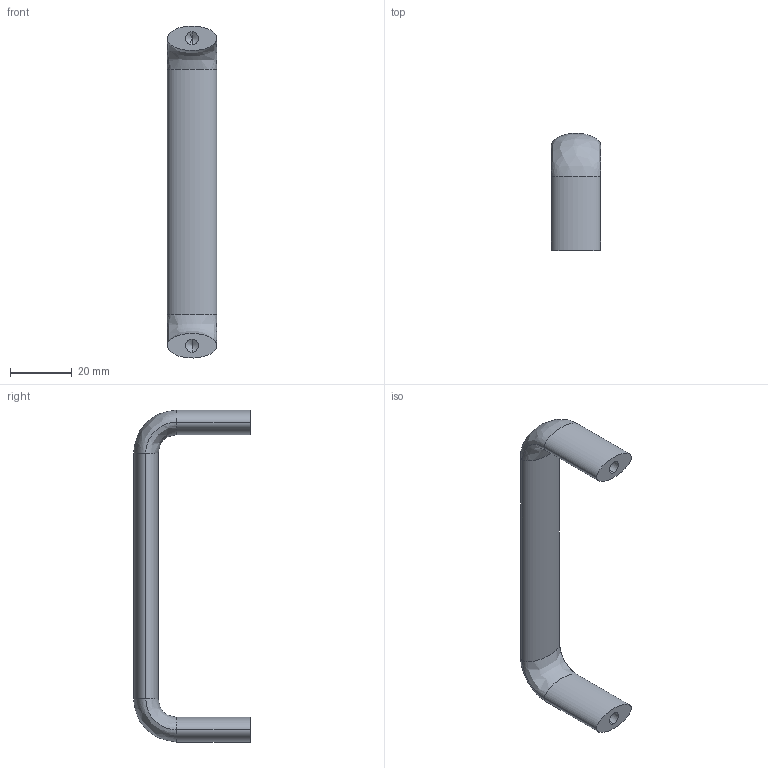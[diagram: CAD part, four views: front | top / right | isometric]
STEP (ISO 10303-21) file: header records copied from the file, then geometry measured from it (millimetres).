
FILE_DESCRIPTION (( 'STEP AP203' ), '1' );
FILE_NAME ('E02-516100.STEP', '2024-10-29T02:55:37', ( '' ), ( '' ), 'SwSTEP 2.0', 'SolidWorks 2021', '' );
FILE_SCHEMA (( 'CONFIG_CONTROL_DESIGN' ));
Length unit declared in the file: millimetre
Products named in the file (1): E02-516100
Bounding box: 16 x 37.99 x 107.98 mm (x, y, z)
Volume: 15653.4 mm3; surface area: 6726.7 mm2
Topology: 1 solids, 1 shells, 20 faces, 42 edges, 22 vertices
Faces by surface type: bspline 10, cylinder 4, cone 4, plane 2
Entity records: 707 total; most frequent: CARTESIAN_POINT 321, ORIENTED_EDGE 76, DIRECTION 46, EDGE_CURVE 38, VERTEX_POINT 22, EDGE_LOOP 22, ADVANCED_FACE 20, FACE_OUTER_BOUND 20
